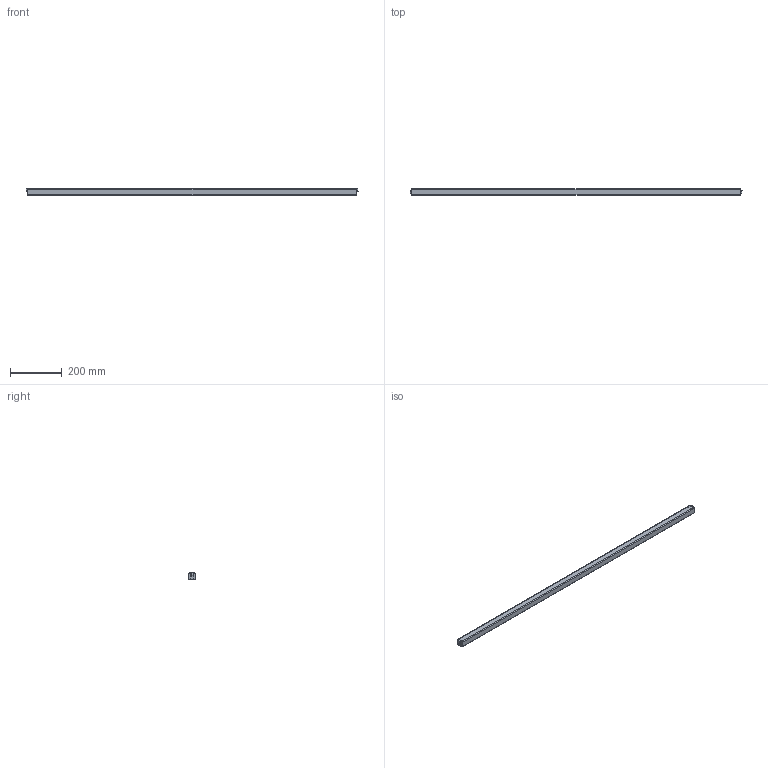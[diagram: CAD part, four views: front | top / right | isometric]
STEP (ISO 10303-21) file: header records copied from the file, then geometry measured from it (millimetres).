
FILE_DESCRIPTION (( 'STEP AP214' ), '1' );
FILE_NAME ('705375.STEP', '2025-10-01T09:40:28', ( '' ), ( '' ), 'SwSTEP 2.0', 'SolidWorks 2025', '' );
FILE_SCHEMA (( 'AUTOMOTIVE_DESIGN' ));
Length unit declared in the file: millimetre
Products named in the file (1): 705375
Bounding box: 1288.6 x 25 x 26.5 mm (x, y, z)
Volume: 796646.4 mm3; surface area: 127301.9 mm2
Topology: 3 solids, 3 shells, 77 faces, 211 edges, 140 vertices
Faces by surface type: plane 44, cylinder 33
Entity records: 2498 total; most frequent: DIRECTION 435, CARTESIAN_POINT 429, ORIENTED_EDGE 422, EDGE_CURVE 211, AXIS2_PLACEMENT_3D 146, LINE 143, VECTOR 143, VERTEX_POINT 140
